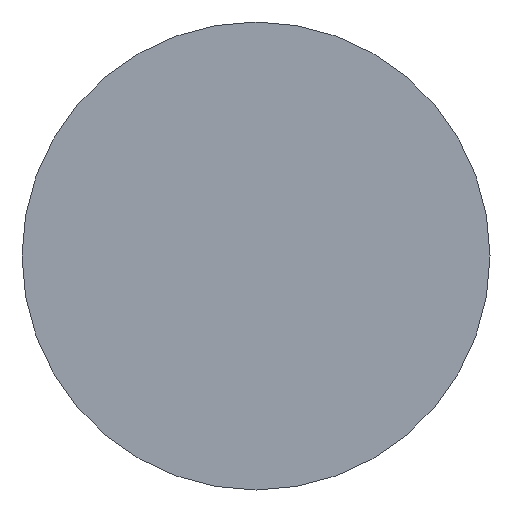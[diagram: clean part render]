
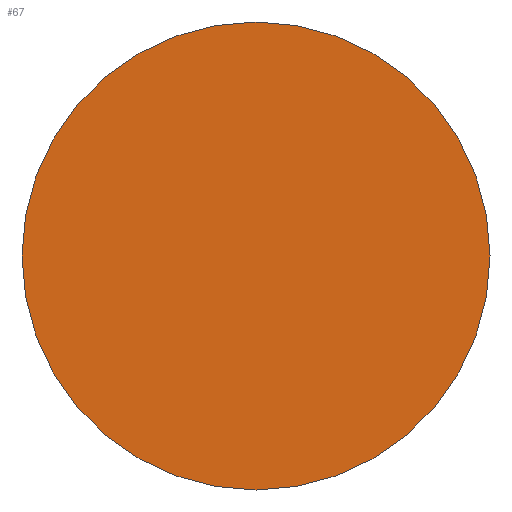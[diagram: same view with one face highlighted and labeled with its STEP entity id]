
A CAD part, front view. The second image highlights one B-rep face of the part: STEP entity #67.
In plain terms, the highlighted planar face has unit normal (0, -1, 0).
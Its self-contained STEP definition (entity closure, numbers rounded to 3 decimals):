
#46 = DIRECTION ( 'NONE',  ( 0., 0., -1. ) ) ;
#61 = DIRECTION ( 'NONE',  ( 0., 0., 1. ) ) ;
#67 = ADVANCED_FACE ( 'NONE', ( #255 ), #189, .T. ) ;
#74 = EDGE_LOOP ( 'NONE', ( #142, #146 ) ) ;
#94 = CIRCLE ( 'NONE', #288, 2. ) ;
#142 = ORIENTED_EDGE ( 'NONE', *, *, #202, .F. ) ;
#146 = ORIENTED_EDGE ( 'NONE', *, *, #156, .F. ) ;
#149 = CIRCLE ( 'NONE', #191, 2. ) ;
#152 = CARTESIAN_POINT ( 'NONE',  ( 0., 0., 0. ) ) ;
#156 = EDGE_CURVE ( 'NONE', #207, #182, #149, .T. ) ;
#171 = AXIS2_PLACEMENT_3D ( 'NONE', #312, #186, #46 ) ;
#182 = VERTEX_POINT ( 'NONE', #245 ) ;
#186 = DIRECTION ( 'NONE',  ( 0., -1., 0. ) ) ;
#189 = PLANE ( 'NONE',  #171 ) ;
#191 = AXIS2_PLACEMENT_3D ( 'NONE', #152, #276, #61 ) ;
#202 = EDGE_CURVE ( 'NONE', #182, #207, #94, .T. ) ;
#207 = VERTEX_POINT ( 'NONE', #251 ) ;
#208 = DIRECTION ( 'NONE',  ( 0., 1., 0. ) ) ;
#245 = CARTESIAN_POINT ( 'NONE',  ( 0., 0., 2. ) ) ;
#251 = CARTESIAN_POINT ( 'NONE',  ( 0., 0., -2. ) ) ;
#255 = FACE_OUTER_BOUND ( 'NONE', #74, .T. ) ;
#276 = DIRECTION ( 'NONE',  ( 0., 1., 0. ) ) ;
#288 = AXIS2_PLACEMENT_3D ( 'NONE', #322, #208, #298 ) ;
#298 = DIRECTION ( 'NONE',  ( 0., 0., 1. ) ) ;
#312 = CARTESIAN_POINT ( 'NONE',  ( 0., 0., 0. ) ) ;
#322 = CARTESIAN_POINT ( 'NONE',  ( 0., 0., 0. ) ) ;
